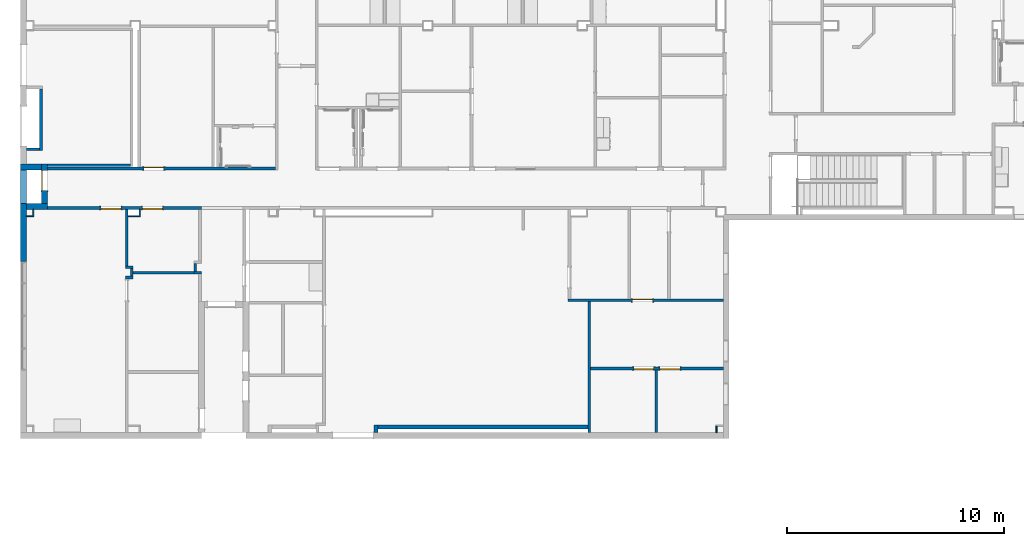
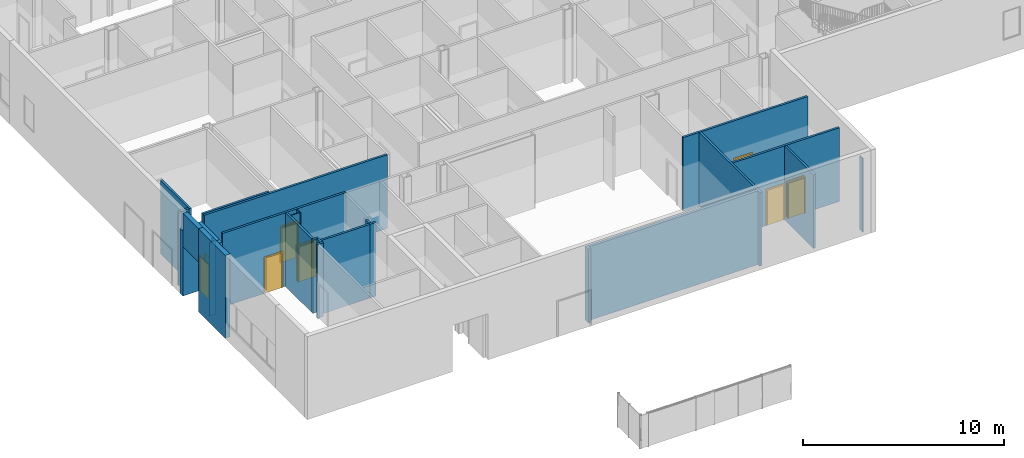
# One storey, part 19 of 87: 28 walls, 7 doors, 7 openings.
"""IFC2X3 building model written with IfcOpenShell, lengths in metres."""

from ifc_helpers import new_model, entity, si_unit, converted_unit, frame, frame_2d, origin, origin_2d_with_axis, place, context, project, spatial, polyline, rectangle, outline, extrude, source, transform, mapped, material, layer, layer_set, layer_usage, type_object, type_shapes, element, fill, save


model = new_model("IFC2X3")

# Units and contexts
model_context = context("Model", 3, precision=1e-09, world=origin())
plan_context = context("Plan", 3, precision=1e-09, world=origin())
ifc_project = project(units=[si_unit("LENGTHUNIT", "METRE"), si_unit("AREAUNIT", "SQUARE_METRE"), si_unit("VOLUMEUNIT", "CUBIC_METRE"), converted_unit("PLANEANGLEUNIT", "DEGREE", entity("IfcRatioMeasure", 0.01745329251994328), si_unit("PLANEANGLEUNIT", "RADIAN"), dimensions=[0, 0, 0, 0, 0, 0, 0]), si_unit("TIMEUNIT", "SECOND")], contexts=[model_context, plan_context])

# Site, building, storey
site_placement = place(None, origin())
site = spatial("IfcSite", under=ifc_project, at=site_placement, Name="Default", CompositionType="ELEMENT")
building_placement = place(site_placement, origin())
building = spatial("IfcBuilding", under=site, at=building_placement, CompositionType="ELEMENT")
storey_placement = place(building_placement, origin())
storey = spatial("IfcBuildingStorey", under=building, at=storey_placement, Name="First Floor", CompositionType="ELEMENT", Elevation=-3.531500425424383e-13)

# Wall
ifc_material_1 = material(Name="Insulation - Insulated Panel")
ifc_layer_1 = layer(ifc_material_1, 0.042)
ifc_material_2 = material(Name="Metal - Firring")
ifc_layer_2 = layer(ifc_material_2, 0.038)
ifc_material_3 = material(Name="Wood - Sheathing - plywood")
ifc_layer_3 = layer(ifc_material_3, 0.019)
ifc_material_4 = material(Name="Metal - Stud Layer")
ifc_layer_4 = layer(ifc_material_4, 0.152)
ifc_material_5 = material(Name="Plasterboard")
ifc_layer_5 = layer(ifc_material_5, 0.016)
ifc_layer_set_1 = layer_set([ifc_layer_1, ifc_layer_2, ifc_layer_3, ifc_layer_4, ifc_layer_5], Name="Basic Wall:Exterior - Insul Panel on Mtl. Stud")
ifc_layer_usage_1 = layer_usage(ifc_layer_set_1, "AXIS2", "NEGATIVE", 0.1335)
wall_1_placement = place(storey_placement, frame((-52.01300000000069, 10.29649999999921, 0.0)))
element("IfcWallStandardCase", 1, at=wall_1_placement, inside=storey, material=ifc_layer_usage_1, Name="Basic Wall:Exterior - Insul Panel on Mtl. Stud", ObjectType="Basic Wall:Exterior - Insul Panel on Mtl. Stud", context=model_context, shape_type="SweptSolid", body=[
    extrude(rectangle(XDim=0.9640000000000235, YDim=0.267, at=frame_2d((0.4820000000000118, 0.0), x_axis=(-1.0, 0.0))), origin(), (0.0, 0.0, 1.0), 3.949500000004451),
])

# Wall, opening, door
ifc_layer_usage_2 = layer_usage(ifc_layer_set_1, "AXIS2", "NEGATIVE", 0.1335)
wall_2_placement = place(storey_placement, frame((-51.18250000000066, 10.42999999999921, 0.0), z_axis=(0.0, 0.0, 1.0), x_axis=(0.0, 1.0, 0.0)))
wall_2 = element("IfcWallStandardCase", 2, at=wall_2_placement, inside=storey, material=ifc_layer_usage_2, Name="Basic Wall:Exterior - Insul Panel on Mtl. Stud", ObjectType="Basic Wall:Exterior - Insul Panel on Mtl. Stud", context=model_context, shape_type="SweptSolid", body=[
    extrude(rectangle(XDim=1.817000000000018, YDim=0.2670000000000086, at=frame_2d((0.908500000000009, 0.0), x_axis=(-1.0, 0.0))), origin(), (0.0, 0.0, 1.0), 3.949500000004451),
])
opening_1_placement = place(wall_2_placement, frame((0.5950000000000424, -0.133500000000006, 0.0)))
opening_1 = element("IfcOpeningElement", 3, at=opening_1_placement, cuts=wall_2, Name="M_Single-Flush:0915 x 2134mm Exterior:0915 x 2134mm Exterior:1", ObjectType="Opening", context=model_context, shape_type="SweptSolid", body=[
    extrude(rectangle(XDim=0.9149999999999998, YDim=2.134, at=frame_2d((1.067, 0.4575), x_axis=(0.0, 1.0))), frame((0.0, 0.0, 0.0), z_axis=(0.0, 1.0, 0.0), x_axis=(0.0, 0.0, 1.0)), (0.0, 0.0, 1.0), 0.267),
])
door_style_1 = type_object("IfcDoorStyle", Name="0915 x 2134mm Exterior", ConstructionType="NOTDEFINED", OperationType="SINGLE_SWING_RIGHT", ParameterTakesPrecedence=False, Sizeable=False)
shared_shape_1 = source(origin(), model_context, "Body", "SweptSolid", [
    extrude(outline(polyline([(-0.5335, -1.123999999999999), (0.5334999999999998, -1.123999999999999), (0.5334999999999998, 1.086), (0.4574999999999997, 1.086), (0.4574999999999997, -1.048000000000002), (-0.4574999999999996, -1.048000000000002), (-0.4574999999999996, 1.086), (-0.5335, 1.086), (-0.5335, -1.123999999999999)])), frame((0.4575000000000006, 0.2669999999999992, 1.086), z_axis=(0.0, 1.0, 0.0), x_axis=(1.0, 0.0, 0.0)), (0.0, 0.0, 1.0), 0.02499999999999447),
    extrude(outline(polyline([(-1.123999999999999, -0.5334999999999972), (1.085999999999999, -0.5334999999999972), (1.085999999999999, -0.4575000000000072), (-1.048, -0.4575000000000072), (-1.048, 0.4575000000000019), (1.085999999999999, 0.4575000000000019), (1.085999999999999, 0.5335000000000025), (-1.123999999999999, 0.5335000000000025), (-1.123999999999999, -0.5334999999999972)])), frame((0.4575000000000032, -0.02500000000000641, 1.085999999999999), z_axis=(0.0, 1.0, 0.0), x_axis=(0.0, 0.0, -1.0)), (0.0, 0.0, 1.0), 0.0250000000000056),
    extrude(rectangle(XDim=0.051, YDim=0.9149999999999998, at=origin_2d_with_axis()), frame((0.4575000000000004, 0.2414999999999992, 0.0), z_axis=(0.0, 0.0, 1.0), x_axis=(0.0, 1.0, 0.0)), (0.0, 0.0, 1.0), 2.133999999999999),
])
type_shapes(door_style_1, [shared_shape_1])
door_1_placement = place(opening_1_placement, origin())
door_1 = element("IfcDoor", 4, at=door_1_placement, inside=storey, type_object=door_style_1, Name="M_Single-Flush:0915 x 2134mm Exterior:0915 x 2134mm Exterior", ObjectType="0915 x 2134mm Exterior", OverallHeight=2.134, OverallWidth=0.9149999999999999, context=model_context, shape_type="MappedRepresentation", body=[
    mapped(shared_shape_1, transform((0.0, 0.0, 0.0), scale=1.0)),
])
fill(opening_1, door_1)

# Walls
ifc_layer_usage_3 = layer_usage(ifc_layer_set_1, "AXIS2", "NEGATIVE", 0.1335)
wall_3_placement = place(storey_placement, frame((-51.31600000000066, 12.11349999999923, 0.0), z_axis=(0.0, 0.0, 1.0), x_axis=(-1.0, 0.0, 0.0)))
element("IfcWallStandardCase", 5, at=wall_3_placement, inside=storey, material=ifc_layer_usage_3, Name="Basic Wall:Exterior - Insul Panel on Mtl. Stud", ObjectType="Basic Wall:Exterior - Insul Panel on Mtl. Stud", context=model_context, shape_type="SweptSolid", body=[
    extrude(rectangle(XDim=0.9640000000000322, YDim=0.267, at=frame_2d((0.4820000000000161, 0.0), x_axis=(-1.0, 0.0))), origin(), (0.0, 0.0, 1.0), 3.949500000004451),
])
ifc_layer_6 = layer(ifc_material_5, 0.016)
ifc_layer_7 = layer(ifc_material_4, 0.092)
ifc_layer_8 = layer(ifc_material_5, 0.016)
ifc_layer_set_2 = layer_set([ifc_layer_6, ifc_layer_7, ifc_layer_8], Name="Basic Wall:Interior - Partition (92mm Stud)")
ifc_layer_usage_4 = layer_usage(ifc_layer_set_2, "AXIS2", "NEGATIVE", 0.062)
wall_4_placement = place(storey_placement, frame((-51.04900000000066, 12.18499999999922, 0.0)))
element("IfcWallStandardCase", 6, at=wall_4_placement, inside=storey, material=ifc_layer_usage_4, Name="Basic Wall:Interior - Partition (92mm Stud)", ObjectType="Basic Wall:Interior - Partition (92mm Stud)", context=model_context, shape_type="SweptSolid", body=[
    extrude(rectangle(XDim=3.81900000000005, YDim=0.1240000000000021, at=frame_2d((1.909500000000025, 0.0), x_axis=(-1.0, 0.0))), origin(), (0.0, 0.0, 1.0), 4.46800000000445),
])

# Wall, opening, door
ifc_layer_usage_5 = layer_usage(ifc_layer_set_2, "AXIS2", "NEGATIVE", 0.062)
wall_5_placement = place(storey_placement, frame((-40.55400000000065, 12.04199999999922, 0.0), z_axis=(0.0, 0.0, 1.0), x_axis=(-1.0, 0.0, 0.0)))
wall_5 = element("IfcWallStandardCase", 7, at=wall_5_placement, inside=storey, material=ifc_layer_usage_5, Name="Basic Wall:Interior - Partition (92mm Stud)", ObjectType="Basic Wall:Interior - Partition (92mm Stud)", context=model_context, shape_type="SweptSolid", body=[
    extrude(rectangle(XDim=10.49500000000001, YDim=0.1240000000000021, at=frame_2d((5.247500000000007, 0.0), x_axis=(-1.0, 0.0))), origin(), (0.0, 0.0, 1.0), 4.468000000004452),
])
opening_2_placement = place(wall_5_placement, frame((6.055999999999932, 0.06199999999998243, 0.0)))
opening_2 = element("IfcOpeningElement", 8, at=opening_2_placement, cuts=wall_5, Name="M_Single-Flush:0915 x 2134mm:0915 x 2134mm:1", ObjectType="Opening", context=model_context, shape_type="SweptSolid", body=[
    extrude(rectangle(XDim=0.9149999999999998, YDim=2.134, at=frame_2d((1.067, 0.4574999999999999), x_axis=(0.0, -1.0))), frame((0.0, 0.0, 0.0), z_axis=(0.0, -1.0, 0.0), x_axis=(0.0, 0.0, 1.0)), (0.0, 0.0, 1.0), 0.124),
])
door_style_2 = type_object("IfcDoorStyle", Name="0915 x 2134mm", ConstructionType="NOTDEFINED", OperationType="SINGLE_SWING_LEFT", ParameterTakesPrecedence=False, Sizeable=False)
shared_shape_2 = source(origin(), model_context, "Body", "SweptSolid", [
    extrude(outline(polyline([(-0.5335, -1.123999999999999), (0.5334999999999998, -1.123999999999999), (0.5334999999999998, 1.086), (0.4574999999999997, 1.086), (0.4574999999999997, -1.048000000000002), (-0.4574999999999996, -1.048000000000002), (-0.4574999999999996, 1.086), (-0.5335, 1.086), (-0.5335, -1.123999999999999)])), frame((0.4575000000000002, 0.1489999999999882, 1.086), z_axis=(0.0, -1.0, 0.0), x_axis=(-1.0, 0.0, 0.0)), (0.0, 0.0, 1.0), 0.02499999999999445),
    extrude(outline(polyline([(-1.123999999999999, -0.5334999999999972), (1.085999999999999, -0.5334999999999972), (1.085999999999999, -0.4575000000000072), (-1.048, -0.4575000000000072), (-1.048, 0.4575000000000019), (1.085999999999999, 0.4575000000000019), (1.085999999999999, 0.5335000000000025), (-1.123999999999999, 0.5335000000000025), (-1.123999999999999, -0.5334999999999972)])), frame((0.4574999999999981, 0.0, 1.085999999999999), z_axis=(0.0, -1.0, 0.0), x_axis=(0.0, 0.0, -1.0)), (0.0, 0.0, 1.0), 0.02500000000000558),
    extrude(rectangle(XDim=0.9149999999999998, YDim=0.051, at=origin_2d_with_axis()), frame((0.4575000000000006, 0.09849999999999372, 0.0)), (0.0, 0.0, 1.0), 2.133999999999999),
])
type_shapes(door_style_2, [shared_shape_2])
door_2_placement = place(opening_2_placement, frame((0.0, 0.0, 0.0), z_axis=(0.0, 0.0, 1.0), x_axis=(-1.0, 0.0, 0.0)))
door_2 = element("IfcDoor", 9, at=door_2_placement, inside=storey, type_object=door_style_2, Name="M_Single-Flush:0915 x 2134mm:0915 x 2134mm", ObjectType="0915 x 2134mm", OverallHeight=2.134, OverallWidth=0.9149999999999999, context=model_context, shape_type="MappedRepresentation", body=[
    mapped(shared_shape_2, transform((0.0, 0.0, 0.0), scale=1.0)),
])
fill(opening_2, door_2)

# Walls
ifc_material_6 = material(Name="Type-X Plasterboard")
ifc_layer_9 = layer(ifc_material_6, 0.016)
ifc_layer_10 = layer(ifc_material_4, 0.092)
ifc_layer_11 = layer(ifc_material_6, 0.016)
ifc_layer_set_3 = layer_set([ifc_layer_9, ifc_layer_10, ifc_layer_11], Name="Basic Wall:Interior - Rated 1-HR (92mm Stud)")
ifc_layer_usage_6 = layer_usage(ifc_layer_set_3, "AXIS2", "NEGATIVE", 0.06200000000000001)
wall_6_placement = place(storey_placement, frame((-51.34200000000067, 15.7057999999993, 0.0), z_axis=(0.0, 0.0, 1.0), x_axis=(0.0, -1.0, 0.0)))
element("IfcWallStandardCase", 10, at=wall_6_placement, inside=storey, material=ifc_layer_usage_6, Name="Basic Wall:Interior - Rated 1-HR (92mm Stud)", ObjectType="Basic Wall:Interior - Rated 1-HR (92mm Stud)", context=model_context, shape_type="SweptSolid", body=[
    extrude(rectangle(XDim=2.845800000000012, YDim=0.1240000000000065, at=frame_2d((1.422900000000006, 0.0), x_axis=(-1.0, 0.0))), origin(), (0.0, 0.0, 1.0), 4.46800000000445),
])
ifc_layer_usage_7 = layer_usage(ifc_layer_set_3, "AXIS2", "NEGATIVE", 0.06200000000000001)
wall_7_placement = place(storey_placement, frame((-51.40400000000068, 12.92199999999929, 0.0), z_axis=(0.0, 0.0, 1.0), x_axis=(-1.0, 0.0, 0.0)))
element("IfcWallStandardCase", 11, at=wall_7_placement, inside=storey, material=ifc_layer_usage_7, Name="Basic Wall:Interior - Rated 1-HR (92mm Stud)", ObjectType="Basic Wall:Interior - Rated 1-HR (92mm Stud)", context=model_context, shape_type="SweptSolid", body=[
    extrude(rectangle(XDim=0.6090000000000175, YDim=0.1240000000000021, at=frame_2d((0.3045000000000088, 0.0), x_axis=(-1.0, 0.0))), origin(), (0.0, 0.0, 1.0), 4.46800000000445),
])

# Wall, opening, door
ifc_layer_usage_8 = layer_usage(ifc_layer_set_2, "AXIS2", "NEGATIVE", 0.062)
wall_8_placement = place(storey_placement, frame((-19.94700000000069, 5.971999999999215, 0.0), z_axis=(0.0, 0.0, 1.0), x_axis=(-1.0, 0.0, 0.0)))
wall_8 = element("IfcWallStandardCase", 12, at=wall_8_placement, inside=storey, material=ifc_layer_usage_8, Name="Basic Wall:Interior - Partition (92mm Stud)", ObjectType="Basic Wall:Interior - Partition (92mm Stud)", context=model_context, shape_type="SweptSolid", body=[
    extrude(rectangle(XDim=7.143399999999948, YDim=0.124, at=frame_2d((3.571699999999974, 0.0), x_axis=(-1.0, 0.0))), origin(), (0.0, 0.0, 1.0), 4.468000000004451),
])
opening_3_placement = place(wall_8_placement, frame((4.172999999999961, 0.061999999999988, 0.0)))
opening_3 = element("IfcOpeningElement", 13, at=opening_3_placement, cuts=wall_8, Name="M_Single-Flush:0915 x 2134mm:0915 x 2134mm:1", ObjectType="Opening", context=model_context, shape_type="SweptSolid", body=[
    extrude(rectangle(XDim=0.9149999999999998, YDim=2.134, at=frame_2d((1.067, 0.4574999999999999), x_axis=(0.0, -1.0))), frame((0.0, 0.0, 0.0), z_axis=(0.0, -1.0, 0.0), x_axis=(0.0, 0.0, 1.0)), (0.0, 0.0, 1.0), 0.124),
])
door_3_placement = place(opening_3_placement, frame((0.0, 0.0, 0.0), z_axis=(0.0, 0.0, 1.0), x_axis=(-1.0, 0.0, 0.0)))
door_3 = element("IfcDoor", 14, at=door_3_placement, inside=storey, type_object=door_style_2, Name="M_Single-Flush:0915 x 2134mm:0915 x 2134mm", ObjectType="0915 x 2134mm", OverallHeight=2.134, OverallWidth=0.9149999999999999, context=model_context, shape_type="MappedRepresentation", body=[
    mapped(shared_shape_2, transform((0.0, 0.0, 0.0), scale=1.0)),
])
fill(opening_3, door_3)

# Wall, openings, doors
ifc_layer_usage_9 = layer_usage(ifc_layer_set_2, "AXIS2", "NEGATIVE", 0.062)
wall_9_placement = place(storey_placement, frame((-51.04900000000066, 10.22499999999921, 0.0)))
wall_9 = element("IfcWallStandardCase", 15, at=wall_9_placement, inside=storey, material=ifc_layer_usage_9, Name="Basic Wall:Interior - Partition (92mm Stud)", ObjectType="Basic Wall:Interior - Partition (92mm Stud)", context=model_context, shape_type="SweptSolid", body=[
    extrude(rectangle(XDim=7.089000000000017, YDim=0.1240000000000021, at=frame_2d((3.544500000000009, 0.0), x_axis=(-1.0, 0.0))), origin(), (0.0, 0.0, 1.0), 4.46800000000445),
])
opening_4_placement = place(wall_9_placement, frame((3.379000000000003, 0.06199999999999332, 0.0)))
opening_4 = element("IfcOpeningElement", 16, at=opening_4_placement, cuts=wall_9, Name="M_Single-Flush:0915 x 2134mm:0915 x 2134mm:1", ObjectType="Opening", context=model_context, shape_type="SweptSolid", body=[
    extrude(rectangle(XDim=0.9149999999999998, YDim=2.134, at=frame_2d((1.067, 0.4574999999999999), x_axis=(0.0, -1.0))), frame((0.0, 0.0, 0.0), z_axis=(0.0, -1.0, 0.0), x_axis=(0.0, 0.0, 1.0)), (0.0, 0.0, 1.0), 0.124),
])
opening_5_placement = place(wall_9_placement, frame((5.294000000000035, 0.06199999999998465, 0.0)))
opening_5 = element("IfcOpeningElement", 17, at=opening_5_placement, cuts=wall_9, Name="M_Single-Flush:0915 x 2134mm:0915 x 2134mm:1", ObjectType="Opening", context=model_context, shape_type="SweptSolid", body=[
    extrude(rectangle(XDim=0.9149999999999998, YDim=2.134, at=frame_2d((1.067, 0.4575), x_axis=(0.0, 1.0))), frame((0.0, 0.0, 0.0), z_axis=(0.0, -1.0, 0.0), x_axis=(0.0, 0.0, 1.0)), (0.0, 0.0, 1.0), 0.124),
])
door_style_3 = type_object("IfcDoorStyle", Name="0915 x 2134mm", ConstructionType="NOTDEFINED", OperationType="SINGLE_SWING_RIGHT", ParameterTakesPrecedence=False, Sizeable=False)
shared_shape_3 = source(origin(), model_context, "Body", "SweptSolid", [
    extrude(outline(polyline([(-0.5335, -1.123999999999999), (0.5334999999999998, -1.123999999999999), (0.5334999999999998, 1.086), (0.4574999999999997, 1.086), (0.4574999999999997, -1.048000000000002), (-0.4574999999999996, -1.048000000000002), (-0.4574999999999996, 1.086), (-0.5335, 1.086), (-0.5335, -1.123999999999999)])), frame((0.4575000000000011, 0.1239999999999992, 1.086), z_axis=(0.0, 1.0, 0.0), x_axis=(1.0, 0.0, 0.0)), (0.0, 0.0, 1.0), 0.02499999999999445),
    extrude(outline(polyline([(-1.123999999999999, -0.5334999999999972), (1.085999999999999, -0.5334999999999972), (1.085999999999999, -0.4575000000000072), (-1.048, -0.4575000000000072), (-1.048, 0.4575000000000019), (1.085999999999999, 0.4575000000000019), (1.085999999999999, 0.5335000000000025), (-1.123999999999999, 0.5335000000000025), (-1.123999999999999, -0.5334999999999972)])), frame((0.4575000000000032, -0.02500000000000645, 1.085999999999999), z_axis=(0.0, 1.0, 0.0), x_axis=(0.0, 0.0, -1.0)), (0.0, 0.0, 1.0), 0.02500000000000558),
    extrude(rectangle(XDim=0.051, YDim=0.9149999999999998, at=origin_2d_with_axis()), frame((0.4575000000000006, 0.09849999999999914, 0.0), z_axis=(0.0, 0.0, 1.0), x_axis=(0.0, 1.0, 0.0)), (0.0, 0.0, 1.0), 2.133999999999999),
])
type_shapes(door_style_3, [shared_shape_3])
door_4_placement = place(opening_5_placement, frame((0.0, 0.0, 0.0), z_axis=(0.0, 0.0, 1.0), x_axis=(-1.0, 0.0, 0.0)))
door_4 = element("IfcDoor", 18, at=door_4_placement, inside=storey, type_object=door_style_3, Name="M_Single-Flush:0915 x 2134mm:0915 x 2134mm", ObjectType="0915 x 2134mm", OverallHeight=2.134, OverallWidth=0.9149999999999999, context=model_context, shape_type="MappedRepresentation", body=[
    mapped(shared_shape_3, transform((0.0, 0.0, 0.0), scale=1.0)),
])
fill(opening_5, door_4)
door_5_placement = place(opening_4_placement, frame((0.0, 0.0, 0.0), z_axis=(0.0, 0.0, 1.0), x_axis=(-1.0, 0.0, 0.0)))
door_5 = element("IfcDoor", 19, at=door_5_placement, inside=storey, type_object=door_style_2, Name="M_Single-Flush:0915 x 2134mm:0915 x 2134mm", ObjectType="0915 x 2134mm", OverallHeight=2.134, OverallWidth=0.9149999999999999, context=model_context, shape_type="MappedRepresentation", body=[
    mapped(shared_shape_2, transform((0.0, 0.0, 0.0), scale=1.0)),
])
fill(opening_4, door_5)

# Walls
ifc_layer_usage_10 = layer_usage(ifc_layer_set_2, "AXIS2", "NEGATIVE", 0.062)
wall_10_placement = place(storey_placement, frame((-47.45000000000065, 7.027999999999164, 0.0)))
element("IfcWallStandardCase", 20, at=wall_10_placement, inside=storey, material=ifc_layer_usage_10, Name="Basic Wall:Interior - Partition (92mm Stud)", ObjectType="Basic Wall:Interior - Partition (92mm Stud)", context=model_context, shape_type="SweptSolid", body=[
    extrude(rectangle(XDim=0.3539999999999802, YDim=0.124, at=frame_2d((0.1769999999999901, 0.0), x_axis=(-1.0, 0.0))), origin(), (0.0, 0.0, 1.0), 4.46800000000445),
])
ifc_layer_usage_11 = layer_usage(ifc_layer_set_2, "AXIS2", "NEGATIVE", 0.062)
wall_11_placement = place(storey_placement, frame((-47.15800000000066, 7.089999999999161, 0.0), z_axis=(0.0, 0.0, 1.0), x_axis=(0.0, 1.0, 0.0)))
element("IfcWallStandardCase", 21, at=wall_11_placement, inside=storey, material=ifc_layer_usage_11, Name="Basic Wall:Interior - Partition (92mm Stud)", ObjectType="Basic Wall:Interior - Partition (92mm Stud)", context=model_context, shape_type="SweptSolid", body=[
    extrude(rectangle(XDim=0.3500000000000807, YDim=0.1240000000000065, at=frame_2d((0.1750000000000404, 0.0), x_axis=(-1.0, 0.0))), origin(), (0.0, 0.0, 1.0), 4.46800000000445),
])
ifc_layer_usage_12 = layer_usage(ifc_layer_set_2, "AXIS2", "NEGATIVE", 0.062)
wall_12_placement = place(storey_placement, frame((-47.09600000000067, 7.501999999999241, 0.0), z_axis=(0.0, 0.0, 1.0), x_axis=(-1.0, 0.0, 0.0)))
element("IfcWallStandardCase", 22, at=wall_12_placement, inside=storey, material=ifc_layer_usage_12, Name="Basic Wall:Interior - Partition (92mm Stud)", ObjectType="Basic Wall:Interior - Partition (92mm Stud)", context=model_context, shape_type="SweptSolid", body=[
    extrude(rectangle(XDim=0.3539999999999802, YDim=0.124, at=frame_2d((0.1769999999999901, 0.0), x_axis=(-1.0, 0.0))), origin(), (0.0, 0.0, 1.0), 4.46800000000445),
])
ifc_layer_usage_13 = layer_usage(ifc_layer_set_2, "AXIS2", "NEGATIVE", 0.062)
wall_13_placement = place(storey_placement, frame((-47.38800000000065, 7.563999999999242, 0.0), z_axis=(0.0, 0.0, 1.0), x_axis=(0.0, 1.0, 0.0)))
element("IfcWallStandardCase", 23, at=wall_13_placement, inside=storey, material=ifc_layer_usage_13, Name="Basic Wall:Interior - Partition (92mm Stud)", ObjectType="Basic Wall:Interior - Partition (92mm Stud)", context=model_context, shape_type="SweptSolid", body=[
    extrude(rectangle(XDim=2.598999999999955, YDim=0.1240000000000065, at=frame_2d((1.299499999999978, 0.0), x_axis=(-1.0, 0.0))), origin(), (0.0, 0.0, 1.0), 4.468000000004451),
])
ifc_layer_12 = layer(ifc_material_4, 0.038)
ifc_layer_13 = layer(ifc_material_5, 0.016)
ifc_layer_set_4 = layer_set([ifc_layer_12, ifc_layer_13], Name="Basic Wall:Interior - Furring (38 mm Stud)")
ifc_layer_usage_14 = layer_usage(ifc_layer_set_4, "AXIS2", "POSITIVE", -0.027)
wall_14_placement = place(storey_placement, frame((-46.79700000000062, 10.1629999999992, 0.0), z_axis=(0.0, 0.0, 1.0), x_axis=(0.0, -1.0, 0.0)))
element("IfcWallStandardCase", 24, at=wall_14_placement, inside=storey, material=ifc_layer_usage_14, Name="Basic Wall:Interior - Furring (38 mm Stud)", ObjectType="Basic Wall:Interior - Furring (38 mm Stud)", context=model_context, shape_type="SweptSolid", body=[
    extrude(rectangle(XDim=0.3529999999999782, YDim=0.05400000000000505, at=frame_2d((0.1764999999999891, 0.0), x_axis=(-1.0, 0.0))), origin(), (0.0, 0.0, 1.0), 4.46800000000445),
])
ifc_layer_usage_15 = layer_usage(ifc_layer_set_4, "AXIS2", "POSITIVE", -0.027)
wall_15_placement = place(storey_placement, frame((-46.82400000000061, 9.836999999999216, 0.0), z_axis=(0.0, 0.0, 1.0), x_axis=(-1.0, 0.0, 0.0)))
element("IfcWallStandardCase", 25, at=wall_15_placement, inside=storey, material=ifc_layer_usage_15, Name="Basic Wall:Interior - Furring (38 mm Stud)", ObjectType="Basic Wall:Interior - Furring (38 mm Stud)", context=model_context, shape_type="SweptSolid", body=[
    extrude(rectangle(XDim=0.5020000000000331, YDim=0.05400000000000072, at=frame_2d((0.2510000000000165, 0.0), x_axis=(-1.0, 0.0))), origin(), (0.0, 0.0, 1.0), 4.46800000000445),
])
ifc_layer_usage_16 = layer_usage(ifc_layer_set_2, "AXIS2", "NEGATIVE", 0.062)
wall_16_placement = place(storey_placement, frame((-44.24700012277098, 7.659999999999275, 0.0), z_axis=(0.0, 0.0, 1.0), x_axis=(0.0, -1.0, 0.0)))
element("IfcWallStandardCase", 26, at=wall_16_placement, inside=storey, material=ifc_layer_usage_16, Name="Basic Wall:Interior - Partition (92mm Stud)", ObjectType="Basic Wall:Interior - Partition (92mm Stud)", context=model_context, shape_type="SweptSolid", body=[
    extrude(rectangle(XDim=0.3500000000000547, YDim=0.1240000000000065, at=frame_2d((0.1750000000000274, 0.0), x_axis=(-1.0, 0.0))), origin(), (0.0, 0.0, 1.0), 4.46800000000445),
])
ifc_layer_usage_17 = layer_usage(ifc_layer_set_2, "AXIS2", "NEGATIVE", 0.062)
wall_17_placement = place(storey_placement, frame((-44.30900012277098, 7.24799999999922, 0.0)))
element("IfcWallStandardCase", 27, at=wall_17_placement, inside=storey, material=ifc_layer_usage_17, Name="Basic Wall:Interior - Partition (92mm Stud)", ObjectType="Basic Wall:Interior - Partition (92mm Stud)", context=model_context, shape_type="SweptSolid", body=[
    extrude(rectangle(XDim=0.3490001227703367, YDim=0.124, at=frame_2d((0.1745000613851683, 0.0), x_axis=(-1.0, 0.0))), origin(), (0.0, 0.0, 1.0), 4.46800000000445),
])
ifc_layer_usage_18 = layer_usage(ifc_layer_set_2, "AXIS2", "NEGATIVE", 0.062)
wall_18_placement = place(storey_placement, frame((-44.30900012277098, 7.24799999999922, 0.0), z_axis=(0.0, 0.0, 1.0), x_axis=(-1.0, 0.0, 0.0)))
element("IfcWallStandardCase", 28, at=wall_18_placement, inside=storey, material=ifc_layer_usage_18, Name="Basic Wall:Interior - Partition (92mm Stud)", ObjectType="Basic Wall:Interior - Partition (92mm Stud)", context=model_context, shape_type="SweptSolid", body=[
    extrude(rectangle(XDim=2.786999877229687, YDim=0.124, at=frame_2d((1.393499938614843, 0.0), x_axis=(-1.0, 0.0))), origin(), (0.0, 0.0, 1.0), 4.46800000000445),
])
ifc_layer_14 = layer(ifc_material_4, 0.152)
ifc_layer_15 = layer(ifc_material_5, 0.016)
ifc_layer_set_5 = layer_set([ifc_layer_14, ifc_layer_15], Name="Basic Wall:Interior - Furring (152 mm Stud)")
ifc_layer_usage_19 = layer_usage(ifc_layer_set_5, "AXIS2", "POSITIVE", -0.08399999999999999)
wall_19_placement = place(storey_placement, frame((-35.92640000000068, -0.1130000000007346, 0.0), z_axis=(0.0, 0.0, 1.0), x_axis=(0.0, 1.0, 0.0)))
element("IfcWallStandardCase", 29, at=wall_19_placement, inside=storey, material=ifc_layer_usage_19, Name="Basic Wall:Interior - Furring (152 mm Stud)", ObjectType="Basic Wall:Interior - Furring (152 mm Stud)", context=model_context, shape_type="SweptSolid", body=[
    extrude(rectangle(XDim=0.342999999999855, YDim=0.1679999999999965, at=frame_2d((0.1714999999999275, 0.0), x_axis=(-1.0, 0.0))), origin(), (0.0, 0.0, 1.0), 4.46800000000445),
])
ifc_layer_usage_20 = layer_usage(ifc_layer_set_5, "AXIS2", "POSITIVE", -0.08399999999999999)
wall_20_placement = place(storey_placement, frame((-35.84240000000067, 0.1459999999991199, 0.0)))
element("IfcWallStandardCase", 30, at=wall_20_placement, inside=storey, material=ifc_layer_usage_20, Name="Basic Wall:Interior - Furring (152 mm Stud)", ObjectType="Basic Wall:Interior - Furring (152 mm Stud)", context=model_context, shape_type="SweptSolid", body=[
    extrude(rectangle(XDim=9.668400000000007, YDim=0.168, at=frame_2d((4.834200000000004, 0.0), x_axis=(-1.0, 0.0))), origin(), (0.0, 0.0, 1.0), 4.46800000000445),
])
ifc_layer_usage_21 = layer_usage(ifc_layer_set_2, "AXIS2", "NEGATIVE", 0.062)
wall_21_placement = place(storey_placement, frame((-26.11200000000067, 5.909999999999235, 0.0), z_axis=(0.0, 0.0, 1.0), x_axis=(0.0, -1.0, 0.0)))
element("IfcWallStandardCase", 31, at=wall_21_placement, inside=storey, material=ifc_layer_usage_21, Name="Basic Wall:Interior - Partition (92mm Stud)", ObjectType="Basic Wall:Interior - Partition (92mm Stud)", context=model_context, shape_type="SweptSolid", body=[
    extrude(rectangle(XDim=6.023000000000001, YDim=0.1239999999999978, at=frame_2d((3.0115, 0.0), x_axis=(-1.0, 0.0))), origin(), (0.0, 0.0, 1.0), 4.468000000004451),
])

# Wall, openings, doors
ifc_layer_usage_22 = layer_usage(ifc_layer_set_2, "AXIS2", "NEGATIVE", 0.062)
wall_22_placement = place(storey_placement, frame((-19.9470000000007, 2.841999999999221, 0.0), z_axis=(0.0, 0.0, 1.0), x_axis=(-1.0, 0.0, 0.0)))
wall_22 = element("IfcWallStandardCase", 32, at=wall_22_placement, inside=storey, material=ifc_layer_usage_22, Name="Basic Wall:Interior - Partition (92mm Stud)", ObjectType="Basic Wall:Interior - Partition (92mm Stud)", context=model_context, shape_type="SweptSolid", body=[
    extrude(rectangle(XDim=6.102999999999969, YDim=0.124, at=frame_2d((3.051499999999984, 0.0), x_axis=(-1.0, 0.0))), origin(), (0.0, 0.0, 1.0), 4.46800000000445),
])
opening_6_placement = place(wall_22_placement, frame((3.206999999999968, -0.06200000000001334, 0.0)))
opening_6 = element("IfcOpeningElement", 33, at=opening_6_placement, cuts=wall_22, Name="M_Single-Flush:0915 x 2134mm:0915 x 2134mm:1", ObjectType="Opening", context=model_context, shape_type="SweptSolid", body=[
    extrude(rectangle(XDim=0.9149999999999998, YDim=2.134, at=frame_2d((1.067, 0.4574999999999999), x_axis=(0.0, -1.0))), frame((0.0, 0.0, 0.0), z_axis=(0.0, 1.0, 0.0), x_axis=(0.0, 0.0, 1.0)), (0.0, 0.0, 1.0), 0.124),
])
opening_7_placement = place(wall_22_placement, frame((2.007999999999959, -0.06200000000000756, 0.0)))
opening_7 = element("IfcOpeningElement", 34, at=opening_7_placement, cuts=wall_22, Name="M_Single-Flush:0915 x 2134mm:0915 x 2134mm:1", ObjectType="Opening", context=model_context, shape_type="SweptSolid", body=[
    extrude(rectangle(XDim=0.9149999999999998, YDim=2.134, at=frame_2d((1.067, 0.4575), x_axis=(0.0, 1.0))), frame((0.0, 0.0, 0.0), z_axis=(0.0, 1.0, 0.0), x_axis=(0.0, 0.0, 1.0)), (0.0, 0.0, 1.0), 0.124),
])
door_6_placement = place(opening_7_placement, origin())
door_6 = element("IfcDoor", 35, at=door_6_placement, inside=storey, type_object=door_style_3, Name="M_Single-Flush:0915 x 2134mm:0915 x 2134mm", ObjectType="0915 x 2134mm", OverallHeight=2.134, OverallWidth=0.9149999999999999, context=model_context, shape_type="MappedRepresentation", body=[
    mapped(shared_shape_3, transform((0.0, 0.0, 0.0), scale=1.0)),
])
fill(opening_7, door_6)
door_7_placement = place(opening_6_placement, origin())
door_7 = element("IfcDoor", 36, at=door_7_placement, inside=storey, type_object=door_style_2, Name="M_Single-Flush:0915 x 2134mm:0915 x 2134mm", ObjectType="0915 x 2134mm", OverallHeight=2.134, OverallWidth=0.9149999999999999, context=model_context, shape_type="MappedRepresentation", body=[
    mapped(shared_shape_2, transform((0.0, 0.0, 0.0), scale=1.0)),
])
fill(opening_6, door_7)

# Walls
ifc_layer_usage_23 = layer_usage(ifc_layer_set_2, "AXIS2", "NEGATIVE", 0.062)
wall_23_placement = place(storey_placement, frame((-23.03200000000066, 2.779999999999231, 0.0), z_axis=(0.0, 0.0, 1.0), x_axis=(0.0, -1.0, 0.0)))
element("IfcWallStandardCase", 37, at=wall_23_placement, inside=storey, material=ifc_layer_usage_23, Name="Basic Wall:Interior - Partition (92mm Stud)", ObjectType="Basic Wall:Interior - Partition (92mm Stud)", context=model_context, shape_type="SweptSolid", body=[
    extrude(rectangle(XDim=2.893000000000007, YDim=0.1239999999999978, at=frame_2d((1.446500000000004, 0.0), x_axis=(-1.0, 0.0))), origin(), (0.0, 0.0, 1.0), 4.46800000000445),
])
ifc_layer_usage_24 = layer_usage(ifc_layer_set_1, "AXIS2", "NEGATIVE", 0.1335)
wall_24_placement = place(storey_placement, frame((-52.14650000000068, 7.759999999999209, 0.0), z_axis=(0.0, 0.0, 1.0), x_axis=(0.0, 1.0, 0.0)))
element("IfcWallStandardCase", 38, at=wall_24_placement, inside=storey, material=ifc_layer_usage_24, Name="Basic Wall:Exterior - Insul Panel on Mtl. Stud", ObjectType="Basic Wall:Exterior - Insul Panel on Mtl. Stud", context=model_context, shape_type="SweptSolid", body=[
    extrude(rectangle(XDim=2.67, YDim=0.2670000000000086, at=frame_2d((1.335, 0.0), x_axis=(-1.0, 0.0))), origin(), (0.0, 0.0, 1.0), 5.02700000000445),
])
ifc_layer_usage_25 = layer_usage(ifc_layer_set_1, "AXIS2", "NEGATIVE", 0.1335)
wall_25_placement = place(storey_placement, frame((-52.14650000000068, 10.29649999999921, 3.0), z_axis=(0.0, 0.0, 1.0), x_axis=(0.0, 1.0, 0.0)))
element("IfcWallStandardCase", 39, at=wall_25_placement, inside=storey, material=ifc_layer_usage_25, Name="Basic Wall:Exterior - Insul Panel on Mtl. Stud", ObjectType="Basic Wall:Exterior - Insul Panel on Mtl. Stud", context=model_context, shape_type="SweptSolid", body=[
    extrude(rectangle(XDim=1.550000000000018, YDim=0.267, at=frame_2d((0.908500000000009, 0.0), x_axis=(-1.0, 0.0))), origin(), (0.0, 0.0, 1.0), 2.02700000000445),
])
ifc_layer_usage_26 = layer_usage(ifc_layer_set_4, "AXIS2", "NEGATIVE", 0.027)
wall_26_placement = place(storey_placement, frame((-20.26300000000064, 0.1759999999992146, 0.0), z_axis=(0.0, 0.0, 1.0), x_axis=(0.0, -1.0, 0.0)))
element("IfcWallStandardCase", 40, at=wall_26_placement, inside=storey, material=ifc_layer_usage_26, Name="Basic Wall:Interior - Furring (38 mm Stud)", ObjectType="Basic Wall:Interior - Furring (38 mm Stud)", context=model_context, shape_type="SweptSolid", body=[
    extrude(rectangle(XDim=0.2889999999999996, YDim=0.05399999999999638, at=frame_2d((0.1444999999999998, 0.0), x_axis=(-1.0, 0.0))), origin(), (0.0, 0.0, 1.0), 4.46800000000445),
])
ifc_layer_usage_27 = layer_usage(ifc_layer_set_4, "AXIS2", "NEGATIVE", 0.027)
wall_27_placement = place(storey_placement, frame((-52.01300000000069, 9.836999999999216, 0.0)))
element("IfcWallStandardCase", 41, at=wall_27_placement, inside=storey, material=ifc_layer_usage_27, Name="Basic Wall:Interior - Furring (38 mm Stud)", ObjectType="Basic Wall:Interior - Furring (38 mm Stud)", context=model_context, shape_type="SweptSolid", body=[
    extrude(rectangle(XDim=0.3430000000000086, YDim=0.05400000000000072, at=frame_2d((0.1715000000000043, 0.0), x_axis=(-1.0, 0.0))), origin(), (0.0, 0.0, 1.0), 4.46800000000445),
])
ifc_layer_usage_28 = layer_usage(ifc_layer_set_4, "AXIS2", "NEGATIVE", 0.027)
wall_28_placement = place(storey_placement, frame((-51.69700000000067, 9.863999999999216, 0.0), z_axis=(0.0, 0.0, 1.0), x_axis=(0.0, 1.0, 0.0)))
element("IfcWallStandardCase", 42, at=wall_28_placement, inside=storey, material=ifc_layer_usage_28, Name="Basic Wall:Interior - Furring (38 mm Stud)", ObjectType="Basic Wall:Interior - Furring (38 mm Stud)", context=model_context, shape_type="SweptSolid", body=[
    extrude(rectangle(XDim=0.2989999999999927, YDim=0.05400000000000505, at=frame_2d((0.1494999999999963, 0.0), x_axis=(-1.0, 0.0))), origin(), (0.0, 0.0, 1.0), 4.46800000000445),
])

save(model, "model.ifc")
